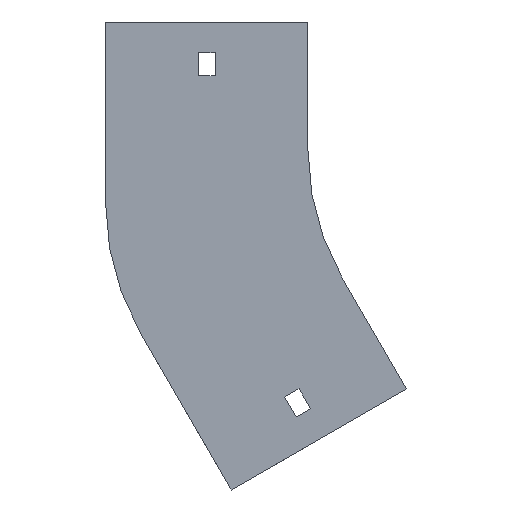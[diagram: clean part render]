
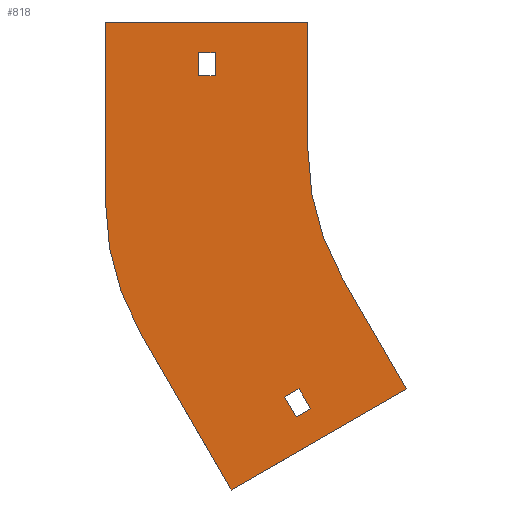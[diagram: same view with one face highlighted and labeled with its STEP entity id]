
A CAD part, front view. The second image highlights one B-rep face of the part: STEP entity #818.
In plain terms, the highlighted planar face has unit normal (0, -1, 0).
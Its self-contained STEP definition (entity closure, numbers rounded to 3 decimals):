
#49 = ORIENTED_EDGE ( 'NONE', *, *, #558, .T. ) ;
#63 = LINE ( 'NONE', #1378, #732 ) ;
#65 = VECTOR ( 'NONE', #749, 1000. ) ;
#74 = CARTESIAN_POINT ( 'NONE',  ( -130.019, 0., -132.801 ) ) ;
#82 = EDGE_CURVE ( 'NONE', #482, #1047, #993, .T. ) ;
#88 = DIRECTION ( 'NONE',  ( -1., 0., 0. ) ) ;
#89 = LINE ( 'NONE', #529, #65 ) ;
#122 = EDGE_CURVE ( 'NONE', #1142, #127, #962, .T. ) ;
#126 = EDGE_CURVE ( 'NONE', #1231, #482, #470, .T. ) ;
#127 = VERTEX_POINT ( 'NONE', #522 ) ;
#148 = CARTESIAN_POINT ( 'NONE',  ( -61.603, 0., -93.301 ) ) ;
#150 = VERTEX_POINT ( 'NONE', #1394 ) ;
#189 = DIRECTION ( 'NONE',  ( 0., 0., -1. ) ) ;
#192 = EDGE_CURVE ( 'NONE', #1126, #697, #63, .T. ) ;
#206 = EDGE_CURVE ( 'NONE', #127, #1234, #770, .T. ) ;
#209 = EDGE_CURVE ( 'NONE', #543, #150, #1071, .T. ) ;
#221 = CARTESIAN_POINT ( 'NONE',  ( -104.625, 0., -104.284 ) ) ;
#223 = VECTOR ( 'NONE', #534, 1000. ) ;
#225 = EDGE_CURVE ( 'NONE', #1173, #1235, #410, .T. ) ;
#230 = CARTESIAN_POINT ( 'NONE',  ( -100., 0., 0. ) ) ;
#232 = ORIENTED_EDGE ( 'NONE', *, *, #206, .F. ) ;
#233 = CARTESIAN_POINT ( 'NONE',  ( -86.603, 0., -50. ) ) ;
#245 = LINE ( 'NONE', #1109, #1130 ) ;
#261 = ORIENTED_EDGE ( 'NONE', *, *, #225, .F. ) ;
#264 = CARTESIAN_POINT ( 'NONE',  ( -109.125, 0., -96.49 ) ) ;
#265 = CARTESIAN_POINT ( 'NONE',  ( -136.25, 0., 38. ) ) ;
#282 = ORIENTED_EDGE ( 'NONE', *, *, #192, .T. ) ;
#294 = CARTESIAN_POINT ( 'NONE',  ( -79., 0., -21.168 ) ) ;
#301 = CARTESIAN_POINT ( 'NONE',  ( -179., 0., -21.168 ) ) ;
#317 = VECTOR ( 'NONE', #942, 1000. ) ;
#323 = CARTESIAN_POINT ( 'NONE',  ( -130.019, 0., -132.801 ) ) ;
#352 = VECTOR ( 'NONE', #968, 1000. ) ;
#383 = VERTEX_POINT ( 'NONE', #1344 ) ;
#391 = LINE ( 'NONE', #931, #1267 ) ;
#410 = LINE ( 'NONE', #527, #352 ) ;
#425 = LINE ( 'NONE', #1282, #778 ) ;
#434 = FACE_BOUND ( 'NONE', #1301, .T. ) ;
#436 = LINE ( 'NONE', #301, #1004 ) ;
#462 = LINE ( 'NONE', #896, #938 ) ;
#470 = CIRCLE ( 'NONE', #1258, 100. ) ;
#482 = VERTEX_POINT ( 'NONE', #1100 ) ;
#496 = CARTESIAN_POINT ( 'NONE',  ( -100., 0., 50. ) ) ;
#504 = CARTESIAN_POINT ( 'NONE',  ( -103.496, 0., -93.24 ) ) ;
#506 = DIRECTION ( 'NONE',  ( 0., 1., 0. ) ) ;
#519 = VERTEX_POINT ( 'NONE', #265 ) ;
#522 = CARTESIAN_POINT ( 'NONE',  ( -165.603, 0., -71.168 ) ) ;
#527 = CARTESIAN_POINT ( 'NONE',  ( -104.625, 0., -104.284 ) ) ;
#529 = CARTESIAN_POINT ( 'NONE',  ( -100., 0., 50. ) ) ;
#534 = DIRECTION ( 'NONE',  ( -0.866, 0., -0.5 ) ) ;
#542 = ORIENTED_EDGE ( 'NONE', *, *, #126, .F. ) ;
#543 = VERTEX_POINT ( 'NONE', #504 ) ;
#547 = FACE_OUTER_BOUND ( 'NONE', #701, .T. ) ;
#558 = EDGE_CURVE ( 'NONE', #519, #1126, #391, .T. ) ;
#584 = ORIENTED_EDGE ( 'NONE', *, *, #82, .F. ) ;
#606 = CARTESIAN_POINT ( 'NONE',  ( -179., 0., 50. ) ) ;
#607 = ORIENTED_EDGE ( 'NONE', *, *, #1014, .F. ) ;
#634 = DIRECTION ( 'NONE',  ( 0., -1., 0. ) ) ;
#654 = EDGE_CURVE ( 'NONE', #1321, #519, #425, .T. ) ;
#655 = ORIENTED_EDGE ( 'NONE', *, *, #1327, .T. ) ;
#666 = AXIS2_PLACEMENT_3D ( 'NONE', #1299, #986, #1313 ) ;
#687 = CARTESIAN_POINT ( 'NONE',  ( -179., 0., -21.168 ) ) ;
#692 = ORIENTED_EDGE ( 'NONE', *, *, #209, .F. ) ;
#697 = VERTEX_POINT ( 'NONE', #1199 ) ;
#701 = EDGE_LOOP ( 'NONE', ( #935, #922, #232, #1095, #607, #584, #542, #950 ) ) ;
#704 = DIRECTION ( 'NONE',  ( -0.5, 0., 0.866 ) ) ;
#706 = LINE ( 'NONE', #1254, #1368 ) ;
#714 = EDGE_CURVE ( 'NONE', #1235, #543, #245, .T. ) ;
#732 = VECTOR ( 'NONE', #88, 1000. ) ;
#736 = DIRECTION ( 'NONE',  ( 0., 0., 1. ) ) ;
#742 = DIRECTION ( 'NONE',  ( 0., 0., 1. ) ) ;
#749 = DIRECTION ( 'NONE',  ( 0., 0., -1. ) ) ;
#770 = CIRCLE ( 'NONE', #903, 100. ) ;
#778 = VECTOR ( 'NONE', #1055, 1000. ) ;
#818 = ADVANCED_FACE ( 'NONE', ( #1295, #547, #434 ), #895, .T. ) ;
#819 = VECTOR ( 'NONE', #1043, 1000. ) ;
#834 = LINE ( 'NONE', #264, #819 ) ;
#835 = DIRECTION ( 'NONE',  ( 0., 0., -1. ) ) ;
#895 = PLANE ( 'NONE',  #666 ) ;
#896 = CARTESIAN_POINT ( 'NONE',  ( -142.75, 0., 29. ) ) ;
#902 = DIRECTION ( 'NONE',  ( 0., 0., 1. ) ) ;
#903 = AXIS2_PLACEMENT_3D ( 'NONE', #294, #506, #736 ) ;
#908 = ORIENTED_EDGE ( 'NONE', *, *, #654, .T. ) ;
#914 = ORIENTED_EDGE ( 'NONE', *, *, #1402, .F. ) ;
#920 = DIRECTION ( 'NONE',  ( 0.5, 0., -0.866 ) ) ;
#922 = ORIENTED_EDGE ( 'NONE', *, *, #1204, .F. ) ;
#925 = VECTOR ( 'NONE', #920, 1000. ) ;
#931 = CARTESIAN_POINT ( 'NONE',  ( -136.25, 0., 29. ) ) ;
#935 = ORIENTED_EDGE ( 'NONE', *, *, #1099, .F. ) ;
#938 = VECTOR ( 'NONE', #902, 1000. ) ;
#942 = DIRECTION ( 'NONE',  ( -0.5, 0., 0.866 ) ) ;
#950 = ORIENTED_EDGE ( 'NONE', *, *, #1220, .F. ) ;
#962 = LINE ( 'NONE', #74, #317 ) ;
#968 = DIRECTION ( 'NONE',  ( 0.866, 0., 0.5 ) ) ;
#985 = VERTEX_POINT ( 'NONE', #496 ) ;
#986 = DIRECTION ( 'NONE',  ( 0., -1., 0. ) ) ;
#993 = LINE ( 'NONE', #233, #925 ) ;
#1004 = VECTOR ( 'NONE', #742, 1000. ) ;
#1014 = EDGE_CURVE ( 'NONE', #1047, #1142, #706, .T. ) ;
#1019 = CARTESIAN_POINT ( 'NONE',  ( -142.75, 0., 38. ) ) ;
#1036 = DIRECTION ( 'NONE',  ( -0.866, 0., -0.5 ) ) ;
#1043 = DIRECTION ( 'NONE',  ( 0.5, 0., -0.866 ) ) ;
#1047 = VERTEX_POINT ( 'NONE', #148 ) ;
#1055 = DIRECTION ( 'NONE',  ( 1., 0., 0. ) ) ;
#1063 = CARTESIAN_POINT ( 'NONE',  ( 0., 0., 0. ) ) ;
#1071 = LINE ( 'NONE', #1162, #223 ) ;
#1095 = ORIENTED_EDGE ( 'NONE', *, *, #122, .F. ) ;
#1097 = CARTESIAN_POINT ( 'NONE',  ( -98.996, 0., -101.034 ) ) ;
#1099 = EDGE_CURVE ( 'NONE', #383, #985, #1341, .T. ) ;
#1100 = CARTESIAN_POINT ( 'NONE',  ( -86.603, 0., -50. ) ) ;
#1109 = CARTESIAN_POINT ( 'NONE',  ( -103.496, 0., -93.24 ) ) ;
#1126 = VERTEX_POINT ( 'NONE', #1175 ) ;
#1130 = VECTOR ( 'NONE', #704, 1000. ) ;
#1142 = VERTEX_POINT ( 'NONE', #323 ) ;
#1162 = CARTESIAN_POINT ( 'NONE',  ( -109.125, 0., -96.49 ) ) ;
#1173 = VERTEX_POINT ( 'NONE', #221 ) ;
#1175 = CARTESIAN_POINT ( 'NONE',  ( -136.25, 0., 29. ) ) ;
#1179 = VECTOR ( 'NONE', #1352, 1000. ) ;
#1199 = CARTESIAN_POINT ( 'NONE',  ( -142.75, 0., 29. ) ) ;
#1204 = EDGE_CURVE ( 'NONE', #1234, #383, #436, .T. ) ;
#1220 = EDGE_CURVE ( 'NONE', #985, #1231, #89, .T. ) ;
#1231 = VERTEX_POINT ( 'NONE', #230 ) ;
#1234 = VERTEX_POINT ( 'NONE', #687 ) ;
#1235 = VERTEX_POINT ( 'NONE', #1097 ) ;
#1254 = CARTESIAN_POINT ( 'NONE',  ( -61.603, 0., -93.301 ) ) ;
#1258 = AXIS2_PLACEMENT_3D ( 'NONE', #1063, #634, #189 ) ;
#1266 = ORIENTED_EDGE ( 'NONE', *, *, #714, .F. ) ;
#1267 = VECTOR ( 'NONE', #835, 1000. ) ;
#1282 = CARTESIAN_POINT ( 'NONE',  ( -142.75, 0., 38. ) ) ;
#1295 = FACE_BOUND ( 'NONE', #1317, .T. ) ;
#1299 = CARTESIAN_POINT ( 'NONE',  ( 0., 0., 0. ) ) ;
#1301 = EDGE_LOOP ( 'NONE', ( #261, #914, #692, #1266 ) ) ;
#1313 = DIRECTION ( 'NONE',  ( 0., 0., -1. ) ) ;
#1317 = EDGE_LOOP ( 'NONE', ( #655, #908, #49, #282 ) ) ;
#1321 = VERTEX_POINT ( 'NONE', #1019 ) ;
#1327 = EDGE_CURVE ( 'NONE', #697, #1321, #462, .T. ) ;
#1341 = LINE ( 'NONE', #606, #1179 ) ;
#1344 = CARTESIAN_POINT ( 'NONE',  ( -179., 0., 50. ) ) ;
#1352 = DIRECTION ( 'NONE',  ( 1., 0., 0. ) ) ;
#1368 = VECTOR ( 'NONE', #1036, 1000. ) ;
#1378 = CARTESIAN_POINT ( 'NONE',  ( -142.75, 0., 29. ) ) ;
#1394 = CARTESIAN_POINT ( 'NONE',  ( -109.125, 0., -96.49 ) ) ;
#1402 = EDGE_CURVE ( 'NONE', #150, #1173, #834, .T. ) ;
